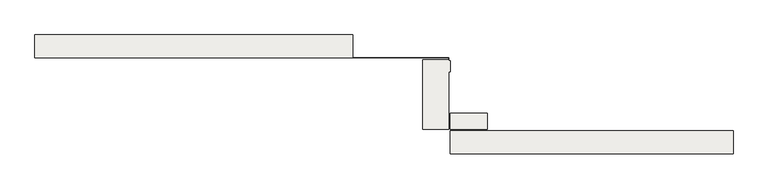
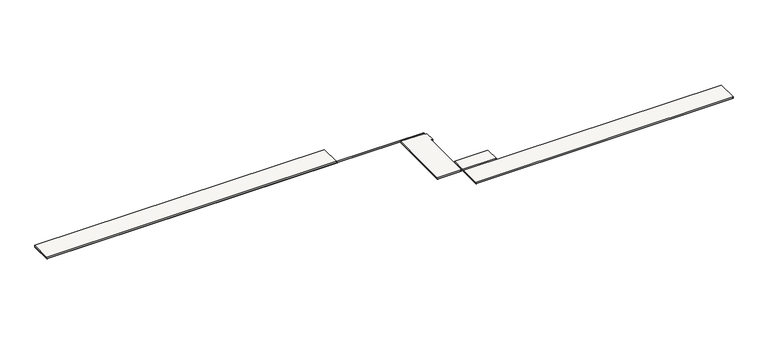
"""IFC4 building model written with IfcOpenShell, lengths in millimetres: slab geometry, Sol-02 - dalle béton 20cm + finition 1cm."""

from ifc_helpers import new_model, si_unit, frame, origin, place, context, project, spatial, polyline, outline, extrude, source, transform, mapped, element, save


def slab_d341e53a(model_context):
    return source(origin(), model_context, "Body", "SweptSolid", [
        extrude(outline(polyline([(-4099.9988284, -21901.5656731), (-36479.9987968, -21901.5656731), (-36479.9987968, -19300.7903364), (-4099.9988284, -19300.7903364), (-4099.9988284, -21901.5656731)])), frame((0.0, 0.0, -210.0), z_axis=(0.0, 0.0, 1.0), x_axis=(1.0, 0.0, 0.0)), (0.0, 0.0, 1.0), 10.0),
        extrude(outline(polyline([(-36479.9987968, -21901.5656731), (-36479.9987968, -19300.7903364), (-4099.9988284, -19300.7903364), (-4099.9988284, -21901.5656731), (-36479.9987968, -21901.5656731)])), frame((0.0, 0.0, -200.0), z_axis=(0.0, 0.0, 1.0), x_axis=(1.0, 0.0, 0.0)), (0.0, 0.0, 1.0), 200.0),
        extrude(outline(polyline([(-36679.9987968, -19100.7903364), (-39679.9987968, -19100.7903364), (-39679.9987968, -11119.999999), (-36699.9987968, -11119.999999), (-36699.9987968, -10903.1349959), (-47629.998776, -10903.1349959), (-47629.998776, -10899.999999), (-36679.9987968, -10899.999999), (-36679.9987968, -11269.0677037), (-36479.9987968, -11269.0677037), (-36479.9987968, -12533.7226317), (-36679.9987968, -12533.7226317), (-36679.9987968, -19100.7903364)])), frame((0.0, 0.0, -210.0), z_axis=(0.0, 0.0, 1.0), x_axis=(1.0, 0.0, 0.0)), (0.0, 0.0, 1.0), 10.0),
        extrude(outline(polyline([(-39679.9987968, -19100.7903364), (-39679.9987968, -11119.999999), (-36699.9987968, -11119.999999), (-36699.9987968, -10903.1349959), (-47629.998776, -10903.1349959), (-47629.998776, -10899.999999), (-36679.9987968, -10899.999999), (-36679.9987968, -11269.0677037), (-36479.9987968, -11269.0677037), (-36479.9987968, -12533.7226317), (-36679.9987968, -12533.7226317), (-36679.9987968, -19100.7903364), (-39679.9987968, -19100.7903364)])), frame((0.0, 0.0, -200.0), z_axis=(0.0, 0.0, 1.0), x_axis=(1.0, 0.0, 0.0)), (0.0, 0.0, 1.0), 200.0),
        extrude(outline(polyline([(-84094.9987767, -8300.4850099), (-47679.998776, -8300.4850099), (-47679.998776, -10899.999999), (-84094.9987767, -10899.999999), (-84094.9987767, -8300.4850099)])), frame((0.0, 0.0, -210.0), z_axis=(0.0, 0.0, 1.0), x_axis=(1.0, 0.0, 0.0)), (0.0, 0.0, 1.0), 10.0),
        extrude(outline(polyline([(-47679.998776, -8300.4850099), (-47679.998776, -10899.999999), (-84094.9987767, -10899.999999), (-84094.9987767, -8300.4850099), (-47679.998776, -8300.4850099)])), frame((0.0, 0.0, -200.0), z_axis=(0.0, 0.0, 1.0), x_axis=(1.0, 0.0, 0.0)), (0.0, 0.0, 1.0), 200.0),
        extrude(outline(polyline([(-32292.9988284, -19100.7903364), (-36479.9987968, -19100.7903364), (-36479.9987968, -17300.7903364), (-32292.9988284, -17300.7903364), (-32292.9988284, -19100.7903364)])), frame((0.0, 0.0, -210.0), z_axis=(0.0, 0.0, 1.0), x_axis=(1.0, 0.0, 0.0)), (0.0, 0.0, 1.0), 10.0),
        extrude(outline(polyline([(-36479.9987968, -19100.7903364), (-36479.9987968, -17300.7903364), (-32292.9988284, -17300.7903364), (-32292.9988284, -19100.7903364), (-36479.9987968, -19100.7903364)])), frame((0.0, 0.0, -200.0), z_axis=(0.0, 0.0, 1.0), x_axis=(1.0, 0.0, 0.0)), (0.0, 0.0, 1.0), 200.0),
    ])


if __name__ == "__main__":
    model = new_model("IFC4")
    model_context = context("Model", 3, world=origin())
    ifc_project = project(units=[si_unit("LENGTHUNIT", "METRE", prefix="MILLI")], contexts=[model_context])
    site = spatial("IfcSite", under=ifc_project)
    building = spatial("IfcBuilding", under=site)
    placement = place(None, origin())
    slab_shape = slab_d341e53a(model_context)
    element("IfcSlab", 1, ObjectType="Sol-02 - dalle béton 20cm + finition 1cm", at=placement, inside=building, context=model_context, shape_type="MappedRepresentation", body=[
        mapped(slab_shape, transform((0.0, 0.0, 0.0), x_axis=(1.0, 0.0, 0.0), y_axis=(0.0, 1.0, 0.0), z_axis=(0.0, 0.0, 1.0))),
    ])
    save(model, "model.ifc")
